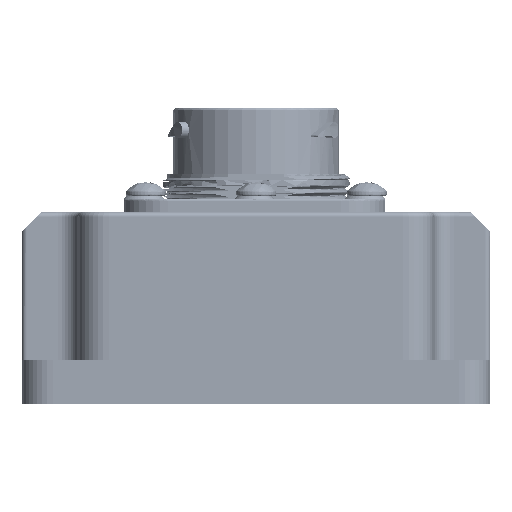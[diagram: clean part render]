
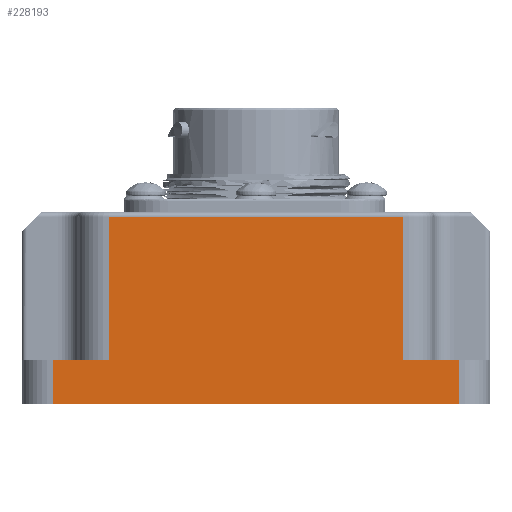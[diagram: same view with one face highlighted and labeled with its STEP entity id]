
A CAD part, front view. The second image highlights one B-rep face of the part: STEP entity #228193.
In plain terms, the highlighted planar face has unit normal (0, -1, 0) as drawn and (-1, 0, 0) by its records, which use the part's own axes.
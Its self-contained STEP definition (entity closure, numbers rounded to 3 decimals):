
#74 = VERTEX_POINT ( 'NONE', #111669 ) ;
#489 = ORIENTED_EDGE ( 'NONE', *, *, #94973, .T. ) ;
#621 = DIRECTION ( 'NONE',  ( 0., 0., 1. ) ) ;
#869 = ORIENTED_EDGE ( 'NONE', *, *, #242282, .T. ) ;
#5205 = DIRECTION ( 'NONE',  ( 0., 1., 0. ) ) ;
#11715 = VERTEX_POINT ( 'NONE', #37147 ) ;
#21947 = CARTESIAN_POINT ( 'NONE',  ( -0.169, -50.787, 39. ) ) ;
#22860 = DIRECTION ( 'NONE',  ( 0., 0., 1. ) ) ;
#29118 = DIRECTION ( 'NONE',  ( 0., 0., -1. ) ) ;
#35402 = VECTOR ( 'NONE', #22860, 1000. ) ;
#35848 = DIRECTION ( 'NONE',  ( 0., -1., 0. ) ) ;
#37147 = CARTESIAN_POINT ( 'NONE',  ( -0.169, 31.963, 39. ) ) ;
#44671 = CARTESIAN_POINT ( 'NONE',  ( -0.169, -50.787, 30. ) ) ;
#48839 = LINE ( 'NONE', #257264, #211073 ) ;
#59622 = VERTEX_POINT ( 'NONE', #93158 ) ;
#60128 = LINE ( 'NONE', #112441, #222436 ) ;
#61934 = CARTESIAN_POINT ( 'NONE',  ( -0.169, 38.213, 39. ) ) ;
#66666 = CARTESIAN_POINT ( 'NONE',  ( -0.169, 20.565, 1. ) ) ;
#67980 = EDGE_CURVE ( 'NONE', #253703, #108017, #256665, .T. ) ;
#71098 = ORIENTED_EDGE ( 'NONE', *, *, #221009, .T. ) ;
#83229 = DIRECTION ( 'NONE',  ( 0., -1., 0. ) ) ;
#91701 = ORIENTED_EDGE ( 'NONE', *, *, #67980, .T. ) ;
#93158 = CARTESIAN_POINT ( 'NONE',  ( -0.169, -39.389, 30. ) ) ;
#94973 = EDGE_CURVE ( 'NONE', #109867, #135219, #238903, .T. ) ;
#95296 = CARTESIAN_POINT ( 'NONE',  ( -0.169, -39.389, 1. ) ) ;
#99739 = CARTESIAN_POINT ( 'NONE',  ( -0.169, 38.213, 1. ) ) ;
#104348 = FACE_OUTER_BOUND ( 'NONE', #137075, .T. ) ;
#106440 = ORIENTED_EDGE ( 'NONE', *, *, #203183, .F. ) ;
#108017 = VERTEX_POINT ( 'NONE', #95296 ) ;
#109867 = VERTEX_POINT ( 'NONE', #44671 ) ;
#110674 = CARTESIAN_POINT ( 'NONE',  ( -0.169, 38.213, 39. ) ) ;
#111669 = CARTESIAN_POINT ( 'NONE',  ( -0.169, 31.963, 30. ) ) ;
#111905 = VECTOR ( 'NONE', #235760, 1000. ) ;
#112441 = CARTESIAN_POINT ( 'NONE',  ( -0.169, 31.963, 39. ) ) ;
#112623 = EDGE_CURVE ( 'NONE', #168730, #253703, #174764, .T. ) ;
#120501 = CARTESIAN_POINT ( 'NONE',  ( -0.169, 26.815, 30. ) ) ;
#132008 = DIRECTION ( 'NONE',  ( 1., 0., 0. ) ) ;
#133058 = VECTOR ( 'NONE', #621, 1000. ) ;
#135219 = VERTEX_POINT ( 'NONE', #21947 ) ;
#137075 = EDGE_LOOP ( 'NONE', ( #164190, #91701, #155699, #71098, #489, #106440, #231627, #869 ) ) ;
#144208 = VECTOR ( 'NONE', #35848, 1000. ) ;
#149663 = CARTESIAN_POINT ( 'NONE',  ( -0.169, -39.389, 30. ) ) ;
#155699 = ORIENTED_EDGE ( 'NONE', *, *, #165838, .T. ) ;
#162197 = DIRECTION ( 'NONE',  ( 0., -1., 0. ) ) ;
#164190 = ORIENTED_EDGE ( 'NONE', *, *, #112623, .T. ) ;
#165838 = EDGE_CURVE ( 'NONE', #108017, #59622, #197647, .T. ) ;
#168730 = VERTEX_POINT ( 'NONE', #231150 ) ;
#174764 = LINE ( 'NONE', #214592, #111905 ) ;
#175641 = LINE ( 'NONE', #120501, #195595 ) ;
#192124 = CARTESIAN_POINT ( 'NONE',  ( -0.169, -50.787, 39. ) ) ;
#195294 = VECTOR ( 'NONE', #83229, 1000. ) ;
#195595 = VECTOR ( 'NONE', #162197, 1000. ) ;
#197647 = LINE ( 'NONE', #149663, #35402 ) ;
#201966 = LINE ( 'NONE', #61934, #195294 ) ;
#203183 = EDGE_CURVE ( 'NONE', #11715, #135219, #201966, .T. ) ;
#211073 = VECTOR ( 'NONE', #214813, 1000. ) ;
#214387 = PLANE ( 'NONE',  #216008 ) ;
#214592 = CARTESIAN_POINT ( 'NONE',  ( -0.169, 20.565, 0. ) ) ;
#214813 = DIRECTION ( 'NONE',  ( 0., -1., 0. ) ) ;
#216008 = AXIS2_PLACEMENT_3D ( 'NONE', #110674, #132008, #5205 ) ;
#221009 = EDGE_CURVE ( 'NONE', #59622, #109867, #48839, .T. ) ;
#222436 = VECTOR ( 'NONE', #29118, 1000. ) ;
#228193 = ADVANCED_FACE ( 'NONE', ( #104348 ), #214387, .F. ) ;
#231150 = CARTESIAN_POINT ( 'NONE',  ( -0.169, 20.565, 30. ) ) ;
#231627 = ORIENTED_EDGE ( 'NONE', *, *, #272434, .T. ) ;
#235760 = DIRECTION ( 'NONE',  ( 0., 0., -1. ) ) ;
#238903 = LINE ( 'NONE', #192124, #133058 ) ;
#242282 = EDGE_CURVE ( 'NONE', #74, #168730, #175641, .T. ) ;
#253703 = VERTEX_POINT ( 'NONE', #66666 ) ;
#256665 = LINE ( 'NONE', #99739, #144208 ) ;
#257264 = CARTESIAN_POINT ( 'NONE',  ( -0.169, -57.037, 30. ) ) ;
#272434 = EDGE_CURVE ( 'NONE', #11715, #74, #60128, .T. ) ;
